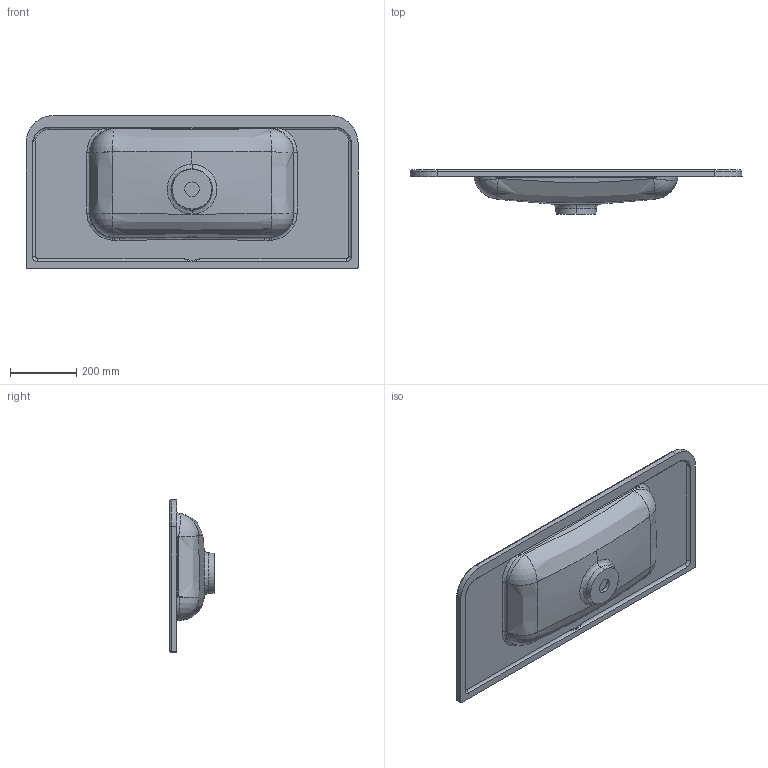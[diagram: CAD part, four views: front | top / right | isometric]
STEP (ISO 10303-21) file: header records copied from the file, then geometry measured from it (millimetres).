
FILE_DESCRIPTION (( 'STEP AP203' ), '1' );
FILE_NAME ('K7115101.stp', '2026-04-13T12:41:27', ( '' ), ( '' ), 'SwSTEP 2.0', 'SolidWorks 2022', '' );
FILE_SCHEMA (( 'CONFIG_CONTROL_DESIGN' ));
Length unit declared in the file: millimetre
Products named in the file (1): K7115101
Bounding box: 1002 x 133 x 461 mm (x, y, z)
Volume: 7790535.9 mm3; surface area: 1159530 mm2
Topology: 2 solids, 2 shells, 157 faces, 357 edges, 204 vertices
Faces by surface type: bspline 45, cylinder 34, plane 23, cone 22, torus 20, sphere 13
Entity records: 7424 total; most frequent: CARTESIAN_POINT 4188, ORIENTED_EDGE 700, DIRECTION 621, EDGE_CURVE 350, AXIS2_PLACEMENT_3D 265, VERTEX_POINT 202, EDGE_LOOP 164, FACE_OUTER_BOUND 157
